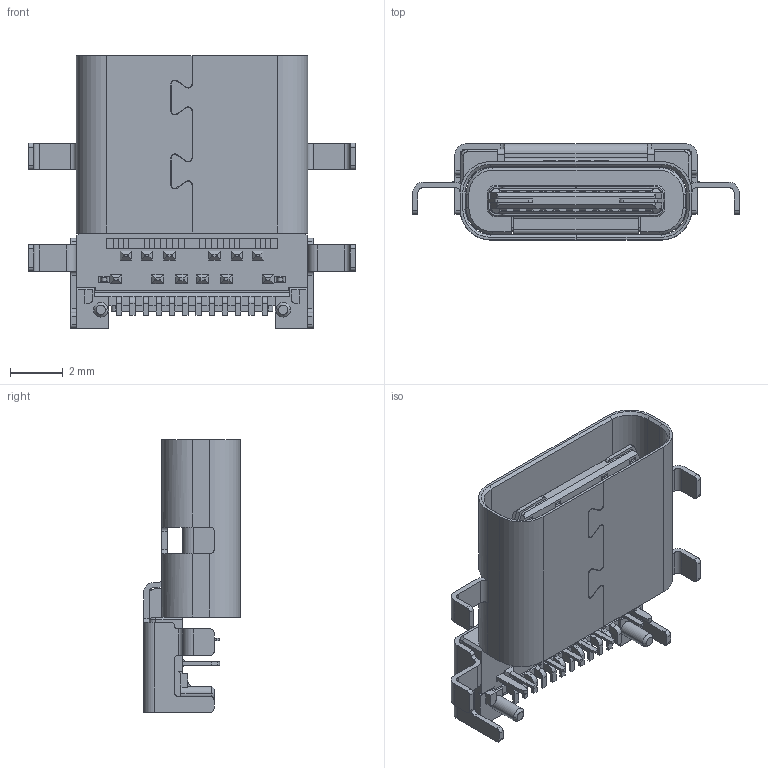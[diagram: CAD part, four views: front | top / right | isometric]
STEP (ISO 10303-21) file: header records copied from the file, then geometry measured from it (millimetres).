
FILE_DESCRIPTION (( 'STEP AP214' ), '1' );
FILE_NAME ('U5137-24PN1.98C10.3L.STEP', '2026-05-20T09:20:44', ( '' ), ( '' ), 'SwSTEP 2.0', 'SolidWorks 2024', '' );
FILE_SCHEMA (( 'AUTOMOTIVE_DESIGN' ));
Length unit declared in the file: millimetre
Products named in the file (1): U5137-24PN1.98C10.3L
Bounding box: 12.35 x 3.64 x 10.3 mm (x, y, z)
Volume: 122.8 mm3; surface area: 814 mm2
Topology: 1 solids, 16 shells, 1731 faces, 4816 edges, 3084 vertices
Faces by surface type: plane 1392, cylinder 256, cone 46, bspline 25, sphere 12
Entity records: 56014 total; most frequent: CARTESIAN_POINT 11510, ORIENTED_EDGE 9608, DIRECTION 8704, EDGE_CURVE 4804, LINE 4106, VECTOR 4106, VERTEX_POINT 3080, AXIS2_PLACEMENT_3D 2299
